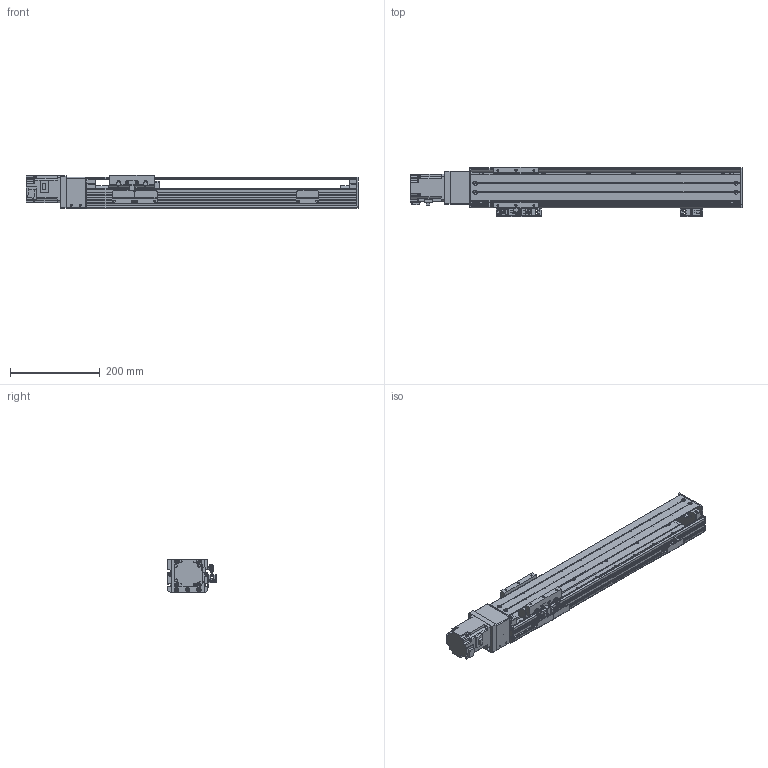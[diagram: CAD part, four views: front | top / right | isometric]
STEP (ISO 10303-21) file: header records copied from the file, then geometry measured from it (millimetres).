
FILE_DESCRIPTION(/* description */ (''),/* implementation_level */ '2;1');
FILE_NAME(/* name */ '\\192.168.0.160\disk1\HAN SHIN Master\B-설계부문\C-표준\B-2024년\BC02-표준도면\+로봇 개선표준도면\표준 승인도 작업 폴더\3D\HG90\HG90직렬\HG90-S20-N1B-0400-R10.stp',/* time_stamp */ '2024-02-16T10:35:36+09:00',/* author */ ('User'),/* organization */ (''),/* preprocessor_version */ 'ST-DEVELOPER v18.1',/* originating_system */ 'Autodesk Inventor 2022',/* authorisation */ '');
FILE_SCHEMA (('AUTOMOTIVE_DESIGN { 1 0 10303 214 3 1 1 }'));
Length unit declared in the file: millimetre
Products named in the file (20): HG90-S20-N1B-0500-R10 - 간소화; HR90 BASE 100W 1BLOCK; HR90 FRONT BLOCK; HR90 REAR BLOCK TENSION; HR90 REAR COVER-TENSION; HG4UPCOV002; HR90 FRRONT COVER-COUPLING; HR120 SENSOR DOG; HG90 S MOTOR PLATE-B; HG90 S MOTOR PLATE-M; hg-kr23_; COUPLING COVER; HG90STOPPER - 27L; HG90STOPPER - 20L; hsr_ftht_A-M6F_grease_nipple_joint; NIPPLE CAP(신규); HR90 TABLE; LMKE1520 NUT; SENSOR BRK(EE-SX674A); EE_SX674A
Assembly tree (25 placements, depth 2):
  HG90-S20-N1B-0500-R10 - 간소화
    HR90 BASE 100W 1BLOCK
    HR90 FRONT BLOCK
    HR90 REAR BLOCK TENSION
    HR90 REAR COVER-TENSION
    HG4UPCOV002
    EE_SX674A  x3
    SENSOR BRK(EE-SX674A)  x3
    HR90 FRRONT COVER-COUPLING
    HR120 SENSOR DOG
    HG90 S MOTOR PLATE-B
    HG90 S MOTOR PLATE-M
    hg-kr23_
    COUPLING COVER
    HG90STOPPER - 27L
    HG90STOPPER - 20L
    hsr_ftht_A-M6F_grease_nipple_joint  x2
    NIPPLE CAP(신규)  x2
    HR90 TABLE
    LMKE1520 NUT
Bounding box: 738.6 x 109 x 75 mm (x, y, z)
Volume: 1521177.2 mm3; surface area: 564187.2 mm2
Topology: 25 solids, 25 shells, 1379 faces, 3692 edges, 2421 vertices
Faces by surface type: plane 677, cylinder 545, cone 121, sphere 16, torus 12, bspline 8
Full cylindrical faces by diameter (mm): 2 x4, 2.459 x14, 3 x4, 3.242 x20, 3.5 x6, 4 x4, 4.134 x54, 4.5 x16, 4.917 x5, 5 x32, 5.5 x33, 5.6 x10, 5.8 x4, 5.9 x8, 6 x6, 6.5 x4, 9.5 x29, 14 x1, 15 x3, 17 x1, 22 x1, 25 x1, 28 x1, 32 x2, 33.7 x1, 34 x1, 40 x1, 46 x1, 50 x2
Entity records: 37567 total; most frequent: CARTESIAN_POINT 7342, DIRECTION 6272, ORIENTED_EDGE 5940, EDGE_CURVE 2970, AXIS2_PLACEMENT_3D 2265, VERTEX_POINT 1982, LINE 1742, VECTOR 1742
